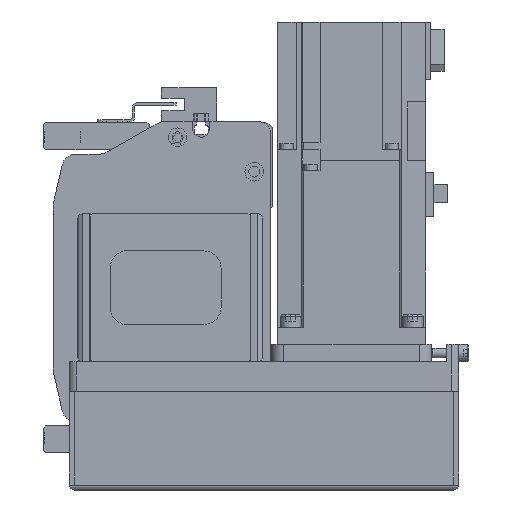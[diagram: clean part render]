
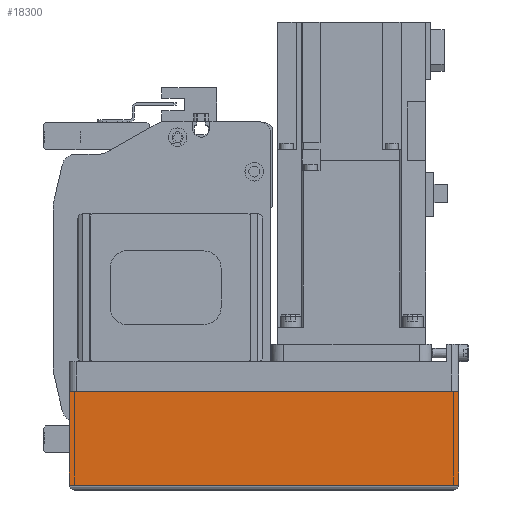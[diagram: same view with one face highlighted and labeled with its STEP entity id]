
A CAD part, left-side view. The second image highlights one B-rep face of the part: STEP entity #18300.
In plain terms, the highlighted planar face has unit normal (-1, 0, 0) as drawn and (0, 1, 0) by its records, which use the part's own axes.
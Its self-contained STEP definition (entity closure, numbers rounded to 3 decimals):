
#2832=ORIENTED_EDGE('',*,*,#7337,.F.);
#2833=ORIENTED_EDGE('',*,*,#7406,.F.);
#2834=ORIENTED_EDGE('',*,*,#7354,.T.);
#2835=ORIENTED_EDGE('',*,*,#7329,.T.);
#7329=EDGE_CURVE('',#9768,#9767,#11637,.T.);
#7337=EDGE_CURVE('',#9775,#9767,#11645,.T.);
#7354=EDGE_CURVE('',#9785,#9768,#11658,.T.);
#7406=EDGE_CURVE('',#9785,#9775,#11687,.T.);
#9767=VERTEX_POINT('',#28068);
#9768=VERTEX_POINT('',#28070);
#9775=VERTEX_POINT('',#28087);
#9785=VERTEX_POINT('',#28118);
#11637=LINE('',#28069,#13297);
#11645=LINE('',#28086,#13305);
#11658=LINE('',#28117,#13318);
#11687=LINE('',#28212,#13347);
#13297=VECTOR('',#22461,1000.);
#13305=VECTOR('',#22473,1000.);
#13318=VECTOR('',#22502,1000.);
#13347=VECTOR('',#22619,1000.);
#14834=EDGE_LOOP('',(#2832,#2833,#2834,#2835));
#16274=FACE_BOUND('',#14834,.T.);
#17543=PLANE('',#19629);
#18300=ADVANCED_FACE('',(#16274),#17543,.T.);
#19629=AXIS2_PLACEMENT_3D('',#28211,#22617,#22618);
#22461=DIRECTION('',(1.,0.,0.));
#22473=DIRECTION('',(0.,0.,1.));
#22502=DIRECTION('',(0.,0.,1.));
#22617=DIRECTION('',(0.,1.,0.));
#22618=DIRECTION('',(0.,0.,1.));
#22619=DIRECTION('',(1.,0.,0.));
#28068=CARTESIAN_POINT('',(0.,39.,-12.1));
#28069=CARTESIAN_POINT('',(-158.,39.,-12.1));
#28070=CARTESIAN_POINT('',(-158.,39.,-12.1));
#28086=CARTESIAN_POINT('',(0.,39.,-50.));
#28087=CARTESIAN_POINT('',(0.,39.,-50.));
#28117=CARTESIAN_POINT('',(-158.,39.,-50.));
#28118=CARTESIAN_POINT('',(-158.,39.,-50.));
#28211=CARTESIAN_POINT('',(-158.,39.,-50.));
#28212=CARTESIAN_POINT('',(-158.,39.,-50.));
